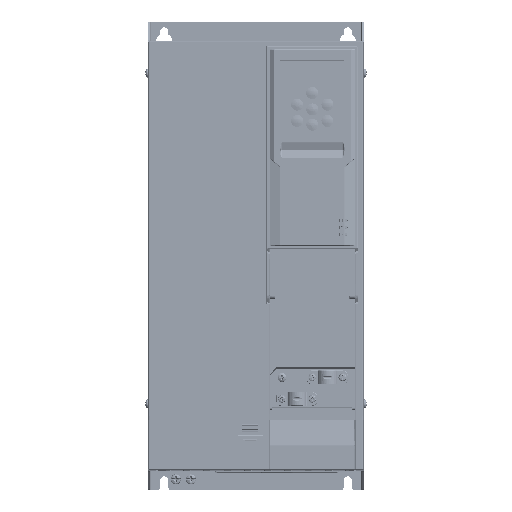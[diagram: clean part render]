
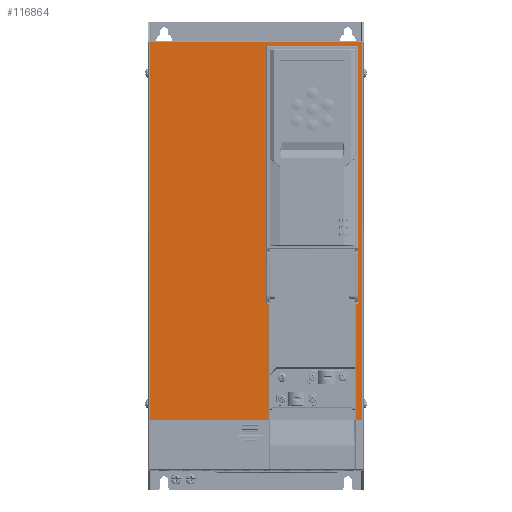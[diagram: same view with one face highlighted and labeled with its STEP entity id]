
A CAD part, top view. The second image highlights one B-rep face of the part: STEP entity #116864.
In plain terms, the highlighted planar face has unit normal (0, 0, 1).
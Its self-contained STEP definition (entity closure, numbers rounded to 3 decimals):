
#6175=DIRECTION('',(-1.,0.,0.));
#6176=VECTOR('',#6175,168.4);
#6177=CARTESIAN_POINT('',(39.7,3.7,0.));
#6178=LINE('',#6177,#6176);
#6182=DIRECTION('',(0.,1.,0.));
#6183=VECTOR('',#6182,299.155);
#6184=CARTESIAN_POINT('',(39.7,-295.455,0.));
#6185=LINE('',#6184,#6183);
#6189=DIRECTION('',(1.,0.,0.));
#6190=VECTOR('',#6189,5.42);
#6191=CARTESIAN_POINT('',(34.28,-295.455,0.));
#6192=LINE('',#6191,#6190);
#6196=DIRECTION('',(0.,-1.,0.));
#6197=VECTOR('',#6196,91.355);
#6198=CARTESIAN_POINT('',(34.28,-204.101,0.));
#6199=LINE('',#6198,#6197);
#6203=DIRECTION('',(-1.,0.,0.));
#6204=VECTOR('',#6203,72.4);
#6205=CARTESIAN_POINT('',(36.2,0.2,0.));
#6206=LINE('',#6205,#6204);
#6210=DIRECTION('',(0.,1.,0.));
#6211=VECTOR('',#6210,91.355);
#6212=CARTESIAN_POINT('',(-34.28,-295.455,0.));
#6213=LINE('',#6212,#6211);
#6217=DIRECTION('',(0.,-1.,0.));
#6218=VECTOR('',#6217,299.155);
#6219=CARTESIAN_POINT('',(-128.7,3.7,0.));
#6220=LINE('',#6219,#6218);
#17966=DIRECTION('',(1.,0.,0.));
#17967=VECTOR('',#17966,94.42);
#17968=CARTESIAN_POINT('',(-128.7,-295.455,0.));
#17969=LINE('',#17968,#17967);
#18642=DIRECTION('',(0.,-1.,0.));
#18643=VECTOR('',#18642,204.301);
#18644=CARTESIAN_POINT('',(36.2,0.2,0.));
#18645=LINE('',#18644,#18643);
#18700=DIRECTION('',(-1.,0.,0.));
#18701=VECTOR('',#18700,1.92);
#18702=CARTESIAN_POINT('',(36.2,-204.101,0.));
#18703=LINE('',#18702,#18701);
#18732=DIRECTION('',(-1.,0.,0.));
#18733=VECTOR('',#18732,1.92);
#18734=CARTESIAN_POINT('',(-34.28,-204.101,0.));
#18735=LINE('',#18734,#18733);
#18768=DIRECTION('',(0.,1.,0.));
#18769=VECTOR('',#18768,204.301);
#18770=CARTESIAN_POINT('',(-36.2,-204.101,0.));
#18771=LINE('',#18770,#18769);
#104997=CARTESIAN_POINT('',(36.2,0.2,0.));
#104998=CARTESIAN_POINT('',(-36.2,0.2,0.));
#104999=VERTEX_POINT('',#104997);
#105000=VERTEX_POINT('',#104998);
#108408=CARTESIAN_POINT('',(36.2,-204.101,0.));
#108409=VERTEX_POINT('',#108408);
#108436=CARTESIAN_POINT('',(-36.2,-204.101,0.));
#108437=VERTEX_POINT('',#108436);
#108454=CARTESIAN_POINT('',(34.28,-204.101,0.));
#108455=CARTESIAN_POINT('',(34.28,-295.455,0.));
#108456=VERTEX_POINT('',#108454);
#108457=VERTEX_POINT('',#108455);
#108458=CARTESIAN_POINT('',(-34.28,-295.455,0.));
#108459=CARTESIAN_POINT('',(-34.28,-204.101,0.));
#108460=VERTEX_POINT('',#108458);
#108461=VERTEX_POINT('',#108459);
#108572=CARTESIAN_POINT('',(39.7,3.7,0.));
#108573=CARTESIAN_POINT('',(-128.7,3.7,0.));
#108574=VERTEX_POINT('',#108572);
#108575=VERTEX_POINT('',#108573);
#108580=CARTESIAN_POINT('',(-128.7,-295.455,0.));
#108581=VERTEX_POINT('',#108580);
#108584=CARTESIAN_POINT('',(39.7,-295.455,0.));
#108585=VERTEX_POINT('',#108584);
#116833=CARTESIAN_POINT('',(0.,0.,0.));
#116834=DIRECTION('',(0.,0.,1.));
#116835=DIRECTION('',(1.,0.,0.));
#116836=AXIS2_PLACEMENT_3D('',#116833,#116834,#116835);
#116837=PLANE('',#116836);
#116839=ORIENTED_EDGE('',*,*,#116838,.F.);
#116841=ORIENTED_EDGE('',*,*,#116840,.F.);
#116843=ORIENTED_EDGE('',*,*,#116842,.F.);
#116845=ORIENTED_EDGE('',*,*,#116844,.F.);
#116847=ORIENTED_EDGE('',*,*,#116846,.F.);
#116849=ORIENTED_EDGE('',*,*,#116848,.F.);
#116851=ORIENTED_EDGE('',*,*,#116850,.T.);
#116853=ORIENTED_EDGE('',*,*,#116852,.F.);
#116855=ORIENTED_EDGE('',*,*,#116854,.F.);
#116857=ORIENTED_EDGE('',*,*,#116856,.F.);
#116859=ORIENTED_EDGE('',*,*,#116858,.F.);
#116861=ORIENTED_EDGE('',*,*,#116860,.F.);
#116862=EDGE_LOOP('',(#116839,#116841,#116843,#116845,#116847,#116849,#116851,
#116853,#116855,#116857,#116859,#116861));
#116863=FACE_OUTER_BOUND('',#116862,.F.);
#116864=ADVANCED_FACE('',(#116863),#116837,.T.);
#116838=EDGE_CURVE('',#108574,#108575,#6178,.T.);
#116840=EDGE_CURVE('',#108585,#108574,#6185,.T.);
#116842=EDGE_CURVE('',#108457,#108585,#6192,.T.);
#116844=EDGE_CURVE('',#108456,#108457,#6199,.T.);
#116846=EDGE_CURVE('',#108409,#108456,#18703,.T.);
#116848=EDGE_CURVE('',#104999,#108409,#18645,.T.);
#116850=EDGE_CURVE('',#104999,#105000,#6206,.T.);
#116852=EDGE_CURVE('',#108437,#105000,#18771,.T.);
#116854=EDGE_CURVE('',#108461,#108437,#18735,.T.);
#116856=EDGE_CURVE('',#108460,#108461,#6213,.T.);
#116858=EDGE_CURVE('',#108581,#108460,#17969,.T.);
#116860=EDGE_CURVE('',#108575,#108581,#6220,.T.);
